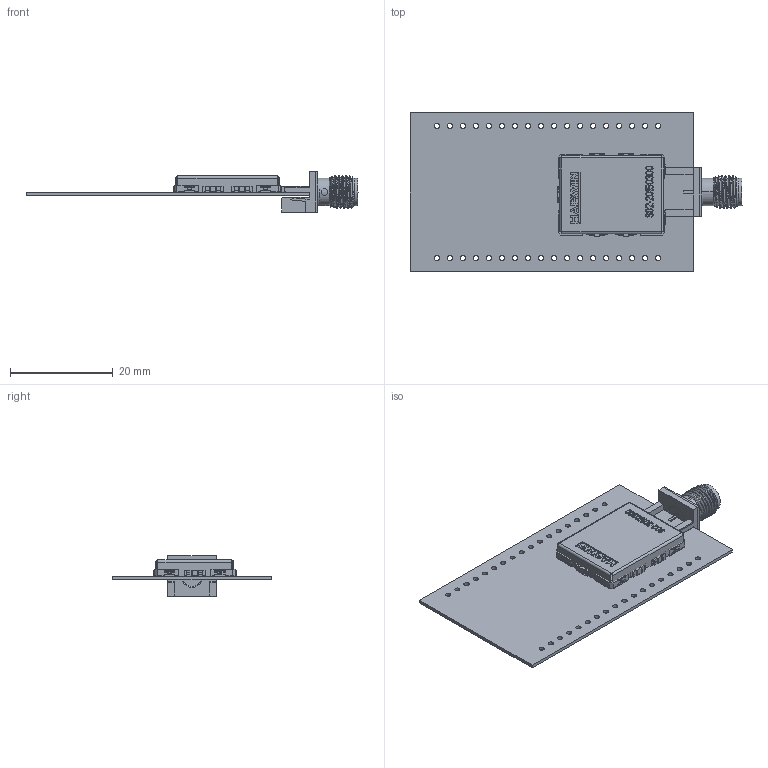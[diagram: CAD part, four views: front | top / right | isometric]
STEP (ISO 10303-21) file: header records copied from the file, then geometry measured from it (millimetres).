
FILE_DESCRIPTION(('Open CASCADE Model'),'2;1');
FILE_NAME('Open CASCADE Shape Model','2025-08-27T10:10:37',('Author'),( 'Open CASCADE'),'Open CASCADE STEP processor 7.5','Open CASCADE 7.5' ,'Unknown');
FILE_SCHEMA(('AUTOMOTIVE_DESIGN { 1 0 10303 214 1 1 1 1 }'));
Length unit declared in the file: millimetre
Products named in the file (95): PCB; Board; Open CASCADE STEP translator 7.5 2.1.1; HW1; s02-20150300; U1; 6375789968; Extruded; J1; 132415_RGB8421504; 142-0791-811_RGB8421504; C11; Capacitors_0201_H0P3; 6601525280; X1; 6601524800; 6601524720; 6601524640; C2; C0402; 6601521200; C1; C5; 6601517280; L1; 6601520880; 6601520720; 6601520560; C8; L2; 6375790768; C14; 6601517680; C12; C7; C16; 6601518400; C17; 6601518640; C13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
Assembly tree (132 placements, depth 4):
  PCB
    Board
      Open CASCADE STEP translator 7.5 2.1.1
    HW1
      s02-20150300
    U1
      6375789968
        Extruded
    J1
      132415_RGB8421504
      142-0791-811_RGB8421504
    C11
      Capacitors_0201_H0P3
      6601525280
        Extruded
    X1
      6601524800
        Extruded
      6601524720
        Extruded
      6601524640
        Extruded
    C2
      C0402
      6601521200
        Extruded
    C1
      C0402
      6601521200
        Extruded
    C5
      Capacitors_0201_H0P3
      6601517280
        Extruded
    L1
      6601520880
        Extruded
      6601520720
        Extruded
      6601520560
        Extruded
    C8
      Capacitors_0201_H0P3
      6601517280
        Extruded
    L2
      C0402
      6375790768
        Extruded
    C14
      Capacitors_0201_H0P3
      6601517680
        Extruded
    C12
      C0402
      6375790768
        Extruded
    C7
      C0402
      6601521200
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Bounding box: 64.78 x 31 x 7.97 mm (x, y, z)
Volume: 1853.2 mm3; surface area: 6335.3 mm2
Topology: 82 solids, 88 shells, 4576 faces, 10966 edges, 6521 vertices
Faces by surface type: plane 2897, cylinder 1081, bspline 469, revolution 88, cone 35, sphere 6
Full cylindrical faces by diameter (mm): 0.2 x1, 0.991 x1, 1 x36, 1.27 x1, 1.321 x1, 4.039 x1, 4.115 x2, 4.674 x1, 5.08 x1, 5.385 x1
Entity records: 65275 total; most frequent: CARTESIAN_POINT 18596, ORIENTED_EDGE 9176, DIRECTION 8783, EDGE_CURVE 4589, LINE 3687, VECTOR 3687, VERTEX_POINT 2894, AXIS2_PLACEMENT_3D 2544
